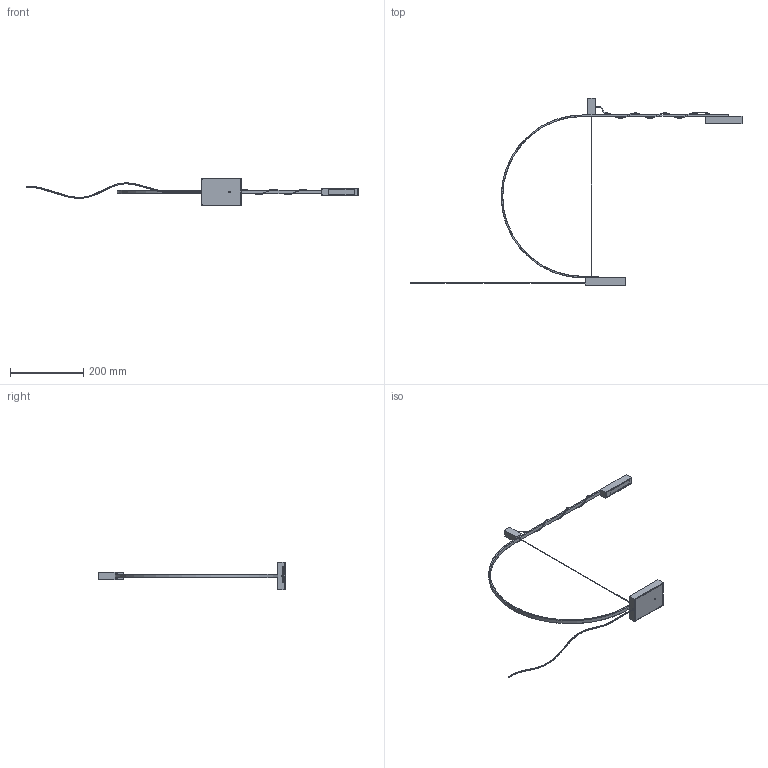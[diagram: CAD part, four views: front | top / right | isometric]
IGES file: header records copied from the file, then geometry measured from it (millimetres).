
Start section: SolidWorks IGES file using analytic representation for surfaces
Global section: file name: N:\Ingegneria\DISEGNI\PRODOTTI\CUPIDO\3D x Sito\CUPLHH11_CUPIDO.IGS; native system: SolidWorks 2016; preprocessor: SolidWorks 2016; author: AlessandroCeppiNemo; date: 251117.164913; units: millimetre
Bounding box: 905.51 x 510 x 75 mm (x, y, z)
Surface area: 78871.4 mm2 (no closed solid volume)
Topology: 0 solids, 0 shells, 148 faces, 2004 edges, 2002 vertices
Faces by surface type: bspline 88, revolution 60
